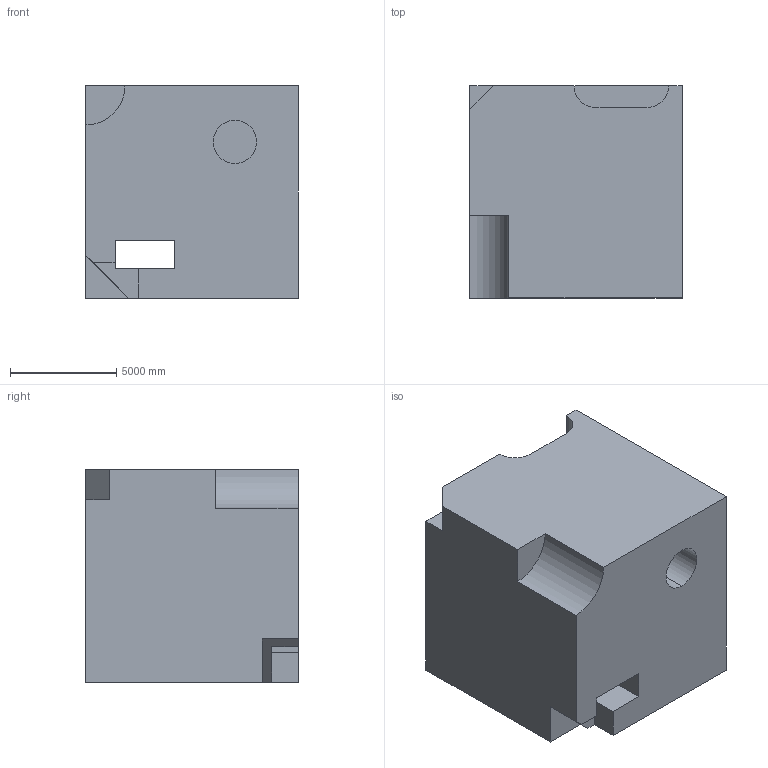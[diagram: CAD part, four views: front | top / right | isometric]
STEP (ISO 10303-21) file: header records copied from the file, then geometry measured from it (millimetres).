
FILE_DESCRIPTION (( 'STEP AP203' ), '1' );
FILE_NAME ('686.STEP', '2022-07-29T12:31:34', ( 'user' ), ( '' ), 'SwSTEP 2.0', 'SolidWorks 2021', '' );
FILE_SCHEMA (( 'CONFIG_CONTROL_DESIGN' ));
Length unit declared in the file: centimetre
Products named in the file (1): 686
Bounding box: 10000 x 10000 x 10000 mm (x, y, z)
Volume: 918377531719.6 mm3; surface area: 710774658.2 mm2
Topology: 1 solids, 1 shells, 26 faces, 72 edges, 48 vertices
Faces by surface type: plane 21, cylinder 5
Entity records: 907 total; most frequent: CARTESIAN_POINT 147, ORIENTED_EDGE 144, DIRECTION 136, EDGE_CURVE 72, LINE 62, VECTOR 62, VERTEX_POINT 48, AXIS2_PLACEMENT_3D 37
